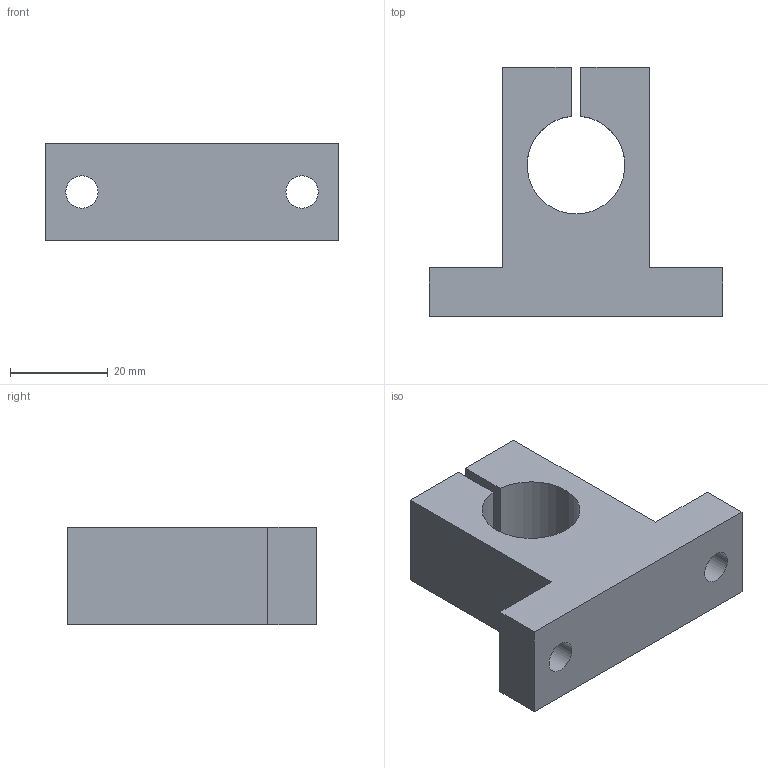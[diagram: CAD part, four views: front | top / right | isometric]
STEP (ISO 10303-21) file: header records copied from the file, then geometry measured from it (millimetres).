
FILE_DESCRIPTION( ( 'STEP AP203' ), '1' );
FILE_NAME( 'p:/temp/worker_8/temp/exporttempdir_328_907_eeYNG/format_0/SK20.stp', '2020-05-08T01:32:36', ( 'License CC BY-ND 4.0' ), ( 'CADENAS' ), ' ', 'PARTsolutions', ' ' );
FILE_SCHEMA( ( 'CONFIG_CONTROL_DESIGN' ) );
Length unit declared in the file: millimetre
Products named in the file (1): _SK20
Bounding box: 60 x 51 x 20 mm (x, y, z)
Volume: 29231.9 mm3; surface area: 9288 mm2
Topology: 1 solids, 1 shells, 16 faces, 42 edges, 28 vertices
Faces by surface type: plane 13, cylinder 3
Full cylindrical faces by diameter (mm): 6.6 x2
Entity records: 534 total; most frequent: CARTESIAN_POINT 85, DIRECTION 80, ORIENTED_EDGE 80, EDGE_CURVE 40, LINE 34, VECTOR 34, VERTEX_POINT 28, AXIS2_PLACEMENT_3D 23
